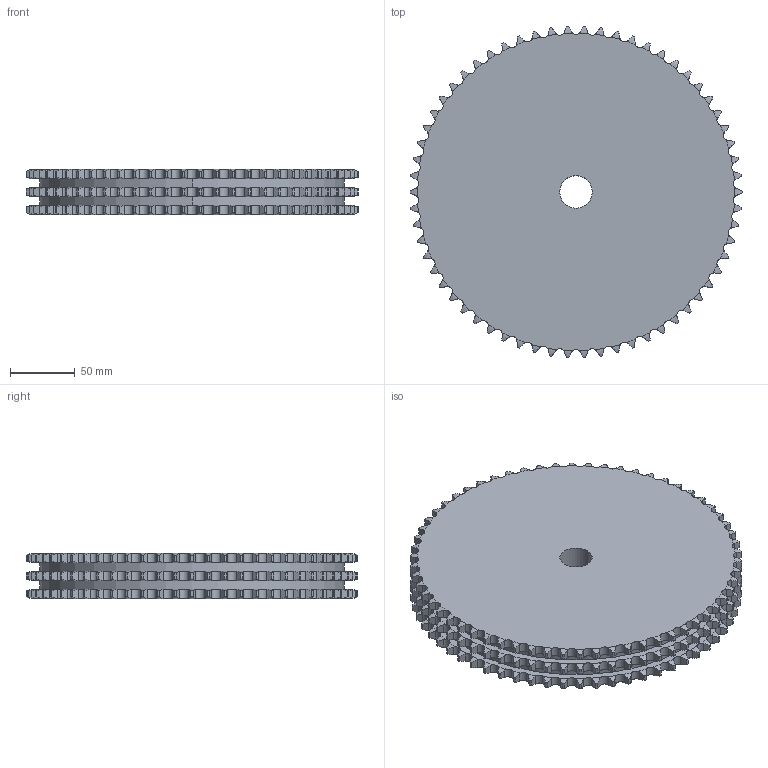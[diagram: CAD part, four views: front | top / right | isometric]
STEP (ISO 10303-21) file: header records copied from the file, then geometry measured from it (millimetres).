
FILE_DESCRIPTION((''),'2;1');
FILE_NAME('500-203-0062_PRT','2021-02-12T',('Brieden'),('Brieden'),'PRO/ENGINEER BY PARAMETRIC TECHNOLOGY CORPORATION, 2010160','PRO/ENGINEER BY PARAMETRIC TECHNOLOGY CORPORATION, 2010160','');
FILE_SCHEMA(('AUTOMOTIVE_DESIGN { 1 0 10303 214 1 1 1 1 }'));
Length unit declared in the file: millimetre
Products named in the file (1): 500-203-0062_PRT
Bounding box: 256.02 x 255.77 x 34.9 mm (x, y, z)
Volume: 1600127.7 mm3; surface area: 152608.3 mm2
Topology: 1 solids, 1 shells, 1128 faces, 3366 edges, 2244 vertices
Faces by surface type: cylinder 750, torus 372, plane 6
Entity records: 55324 total; most frequent: CARTESIAN_POINT 16651, ORIENTED_EDGE 6732, DIRECTION 5262, PRESENTATION_STYLE_ASSIGNMENT 3367, STYLED_ITEM 3367, CURVE_STYLE 3366, EDGE_CURVE 3366, AXIS2_PLACEMENT_3D 2256
